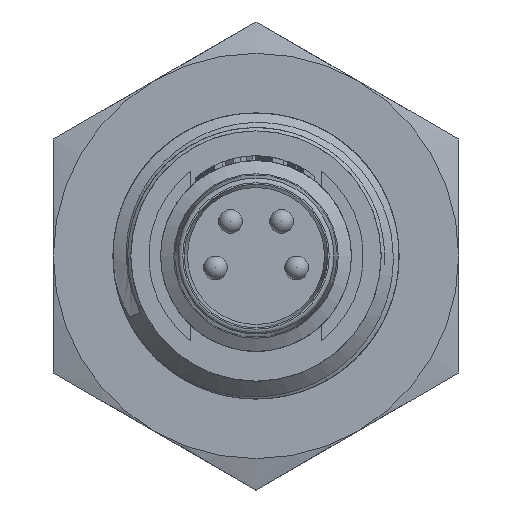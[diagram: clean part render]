
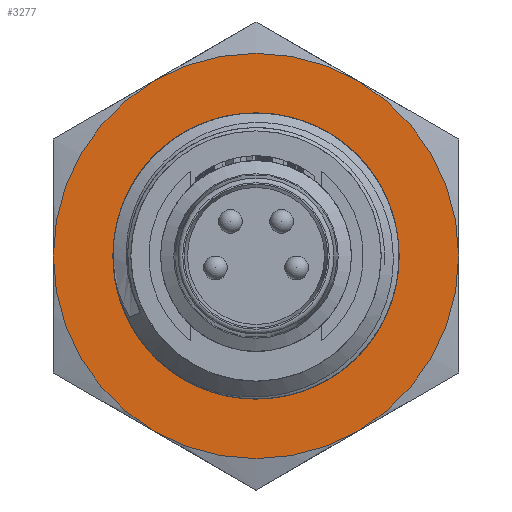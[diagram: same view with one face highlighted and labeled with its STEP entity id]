
A CAD part, left-side view. The second image highlights one B-rep face of the part: STEP entity #3277.
In plain terms, the highlighted planar face has unit normal (-1, 0, 0).
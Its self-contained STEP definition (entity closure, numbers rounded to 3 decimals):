
#1263=FACE_OUTER_BOUND('',#4585,.T.);
#3277=ADVANCED_FACE('',(#1263),#3788,.T.);
#3788=PLANE('',#11872);
#4585=EDGE_LOOP('',(#7629,#7630,#7631,#7632,#7633,#7634));
#7629=ORIENTED_EDGE('',*,*,#10227,.F.);
#7630=ORIENTED_EDGE('',*,*,#10233,.F.);
#7631=ORIENTED_EDGE('',*,*,#10229,.F.);
#7632=ORIENTED_EDGE('',*,*,#10223,.F.);
#7633=ORIENTED_EDGE('',*,*,#10220,.F.);
#7634=ORIENTED_EDGE('',*,*,#10218,.F.);
#8690=VERTEX_POINT('',#28779);
#8691=VERTEX_POINT('',#28784);
#8693=VERTEX_POINT('',#28793);
#8695=VERTEX_POINT('',#28805);
#8697=VERTEX_POINT('',#28820);
#8699=VERTEX_POINT('',#28829);
#10218=EDGE_CURVE('',#8691,#8690,#10438,.T.);
#10220=EDGE_CURVE('',#8690,#8693,#10439,.T.);
#10223=EDGE_CURVE('',#8693,#8695,#10440,.T.);
#10227=EDGE_CURVE('',#8697,#8691,#10441,.T.);
#10229=EDGE_CURVE('',#8695,#8699,#10442,.T.);
#10233=EDGE_CURVE('',#8699,#8697,#10443,.T.);
#10438=CIRCLE('',#11860,8.5);
#10439=CIRCLE('',#11862,8.5);
#10440=CIRCLE('',#11864,8.5);
#10441=CIRCLE('',#11866,8.5);
#10442=CIRCLE('',#11868,8.5);
#10443=CIRCLE('',#11870,8.5);
#11860=AXIS2_PLACEMENT_3D('',#28785,#15353,#15354);
#11862=AXIS2_PLACEMENT_3D('',#28792,#15357,#15358);
#11864=AXIS2_PLACEMENT_3D('',#28804,#15361,#15362);
#11866=AXIS2_PLACEMENT_3D('',#28821,#15365,#15366);
#11868=AXIS2_PLACEMENT_3D('',#28828,#15369,#15370);
#11870=AXIS2_PLACEMENT_3D('',#28844,#15373,#15374);
#11872=AXIS2_PLACEMENT_3D('',#28846,#15377,#15378);
#15353=DIRECTION('',(1.,0.,0.));
#15354=DIRECTION('',(0.,0.,1.));
#15357=DIRECTION('',(1.,0.,0.));
#15358=DIRECTION('',(0.,0.,1.));
#15361=DIRECTION('',(1.,0.,0.));
#15362=DIRECTION('',(0.,0.,1.));
#15365=DIRECTION('',(1.,0.,0.));
#15366=DIRECTION('',(0.,0.,1.));
#15369=DIRECTION('',(1.,0.,0.));
#15370=DIRECTION('',(0.,0.,1.));
#15373=DIRECTION('',(1.,0.,0.));
#15374=DIRECTION('',(0.,0.,1.));
#15377=DIRECTION('',(-1.,0.,0.));
#15378=DIRECTION('',(0.,0.,-1.));
#28779=CARTESIAN_POINT('',(-30.,-4.25,-7.361));
#28784=CARTESIAN_POINT('',(-30.,-8.5,0.));
#28785=CARTESIAN_POINT('',(-30.,0.,0.));
#28792=CARTESIAN_POINT('',(-30.,0.,0.));
#28793=CARTESIAN_POINT('',(-30.,4.25,-7.361));
#28804=CARTESIAN_POINT('',(-30.,0.,0.));
#28805=CARTESIAN_POINT('',(-30.,8.5,0.));
#28820=CARTESIAN_POINT('',(-30.,-4.25,7.361));
#28821=CARTESIAN_POINT('',(-30.,0.,0.));
#28828=CARTESIAN_POINT('',(-30.,0.,0.));
#28829=CARTESIAN_POINT('',(-30.,4.25,7.361));
#28844=CARTESIAN_POINT('',(-30.,0.,0.));
#28846=CARTESIAN_POINT('',(-30.,-8.5,0.));
